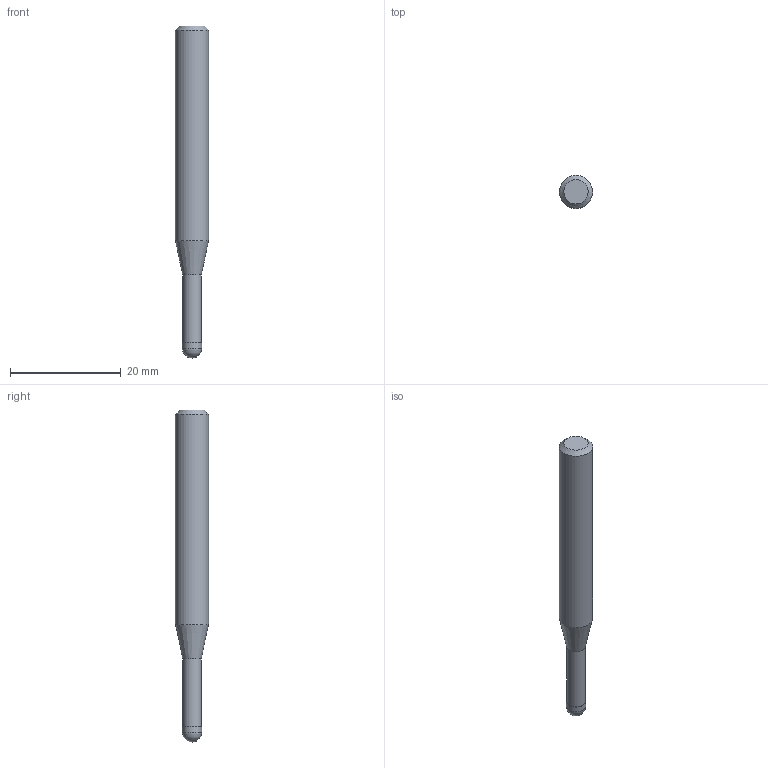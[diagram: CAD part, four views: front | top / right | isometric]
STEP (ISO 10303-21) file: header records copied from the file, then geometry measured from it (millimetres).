
FILE_DESCRIPTION((''),'2;1');
FILE_NAME('C:\Users\nsx150\AppData\Local\Temp\Mastercam 2021\3SYKECWX22\TEMP.step','2021-04-22T10:05:07',(''),(''),'STEP Write','Mastercam 2021 ... CNC Software, Inc.','');
FILE_SCHEMA(('AUTOMOTIVE_DESIGN'));
Length unit declared in the file: millimetre
Products named in the file (1): None
Bounding box: 6 x 6 x 60 mm (x, y, z)
Volume: 1329.3 mm3; surface area: 1020.6 mm2
Topology: 2 solids, 2 shells, 9 faces, 14 edges, 8 vertices
Faces by surface type: plane 3, cylinder 3, cone 2, sphere 1
Full cylindrical faces by diameter (mm): 3.35 x1, 3.5 x1, 6 x1
Entity records: 211 total; most frequent: DIRECTION 36, CARTESIAN_POINT 25, AXIS2_PLACEMENT_3D 18, ORIENTED_EDGE 14, EDGE_LOOP 14, STYLED_ITEM 12, ADVANCED_FACE 9, FACE_BOUND 8
